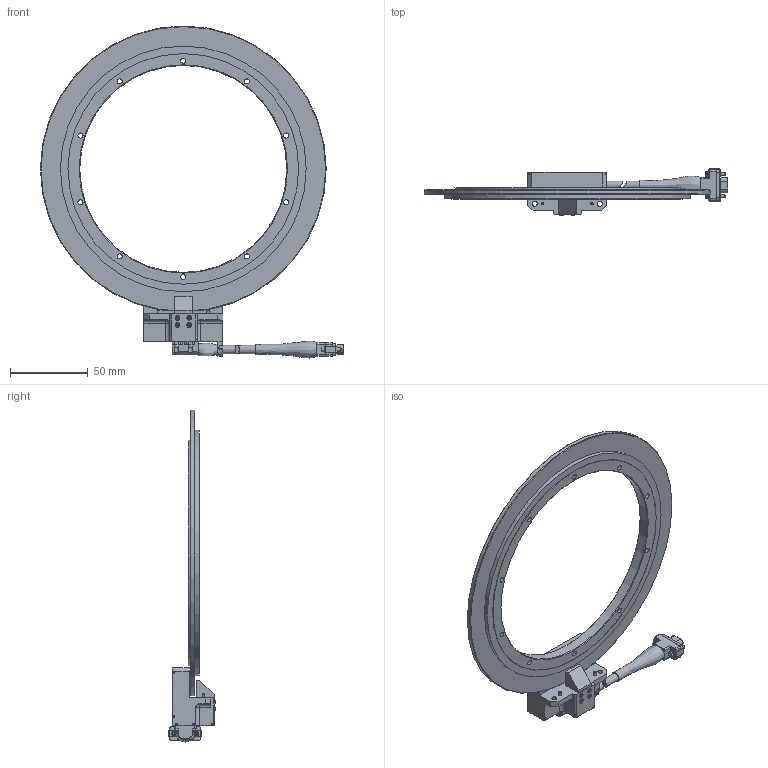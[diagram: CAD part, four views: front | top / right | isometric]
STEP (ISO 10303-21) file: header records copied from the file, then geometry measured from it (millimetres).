
FILE_DESCRIPTION (( 'STEP AP214' ), '1' );
FILE_NAME ('190-0324-01 Encoder Outline, 7.25 inch.STEP', '2019-10-30T19:05:33', ( '' ), ( '' ), 'SwSTEP 2.0', 'SolidWorks 2019', '' );
FILE_SCHEMA (( 'AUTOMOTIVE_DESIGN' ));
Length unit declared in the file: inch
Products named in the file (3): Disk Hub Assy, 7.25 inch; TRACKER Readhead Assy, Left Exit; 190-0324-01 Encoder Outline, 7.25 inch
Assembly tree (2 placements, depth 2):
  190-0324-01 Encoder Outline, 7.25 inch
    Disk Hub Assy, 7.25 inch
    TRACKER Readhead Assy, Left Exit
Bounding box: 195.34 x 29.66 x 213.87 mm (x, y, z)
Volume: 93993.1 mm3; surface area: 47991.7 mm2
Topology: 3 solids, 21 shells, 1807 faces, 4512 edges, 2893 vertices
Faces by surface type: plane 1107, cylinder 284, bspline 209, cone 197, torus 8, sphere 2
Full cylindrical faces by diameter (mm): 0.564 x9, 0.813 x9, 1.3 x2, 1.513 x1, 1.524 x68, 1.58 x2, 1.587 x2, 1.59 x2, 1.778 x14, 1.93 x4, 2.08 x2, 2.1 x4, 2.3 x2, 2.339 x1, 2.36 x2, 2.388 x2, 2.438 x18, 3.18 x2, 3.251 x2, 3.264 x10, 5.309 x3, 133.35 x1, 145.288 x1, 146.812 x1, 148.59 x1, 158.293 x1, 184.15 x1
Entity records: 96196 total; most frequent: CARTESIAN_POINT 32718, ORIENTED_EDGE 7992, DIRECTION 7551, EDGE_CURVE 3996, VERTEX_POINT 2760, LINE 2757, VECTOR 2757, EDGE_LOOP 2408
